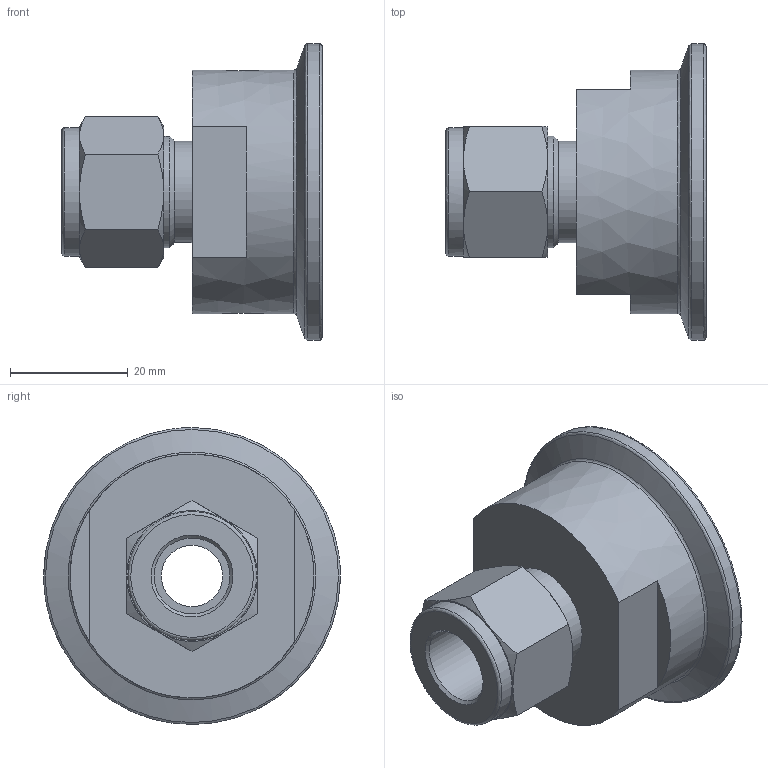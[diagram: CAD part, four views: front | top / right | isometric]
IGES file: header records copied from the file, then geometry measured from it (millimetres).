
Global section: file name: SSFA-8-24SA; native system: Autodesk Inventor 2016; preprocessor: unknown; author: DESIGNPC2; date: 20160312.143758; units: millimetre
Bounding box: 44.2 x 50.4 x 50.4 mm (x, y, z)
Volume: 29947.2 mm3; surface area: 10192.2 mm2
Topology: 1 solids, 1 shells, 51 faces, 141 edges, 98 vertices
Faces by surface type: bspline 51
